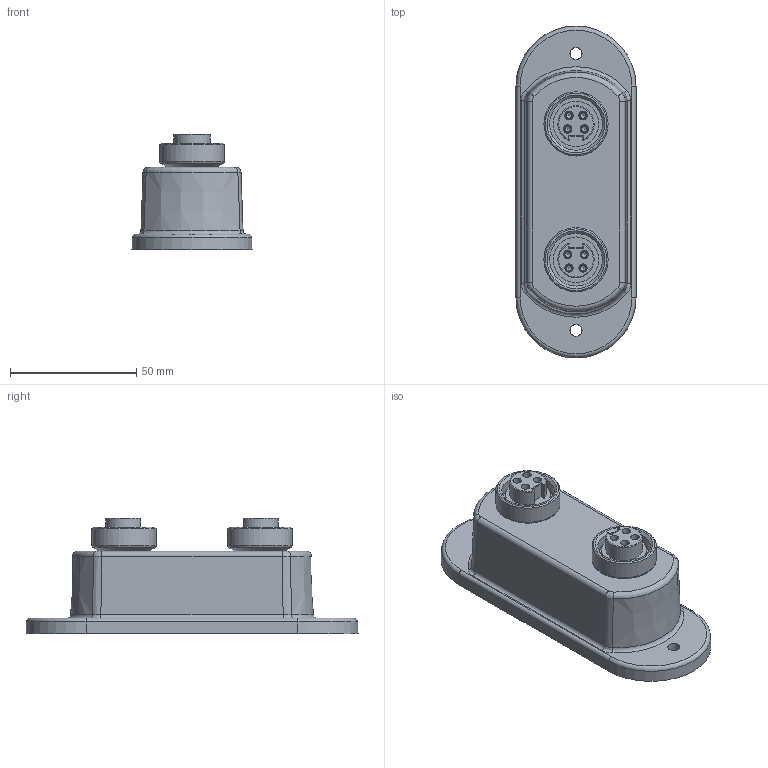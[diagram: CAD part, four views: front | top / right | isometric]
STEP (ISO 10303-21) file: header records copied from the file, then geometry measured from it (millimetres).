
FILE_DESCRIPTION((''),'2;1');
FILE_NAME('C:\TurckZip\CA-2-RKF40.stp','2010-03-05T07:32:41',('IKOROL'),(''),'Autodesk Inventor 2009','Autodesk Inventor 2009','');
FILE_SCHEMA(('CONFIG_CONTROL_DESIGN'));
Length unit declared in the file: millimetre
Products named in the file (1): Part1
Bounding box: 47.5 x 131.35 x 45.77 mm (x, y, z)
Volume: 65807.5 mm3; surface area: 42161.2 mm2
Topology: 1 solids, 12 shells, 532 faces, 1137 edges, 678 vertices
Faces by surface type: cylinder 190, plane 175, cone 83, bspline 54, sphere 20, torus 10
Full cylindrical faces by diameter (mm): 1 x8, 2.155 x16, 2.25 x16, 2.85 x8, 3.2 x8, 3.25 x16, 3.3 x8, 14 x6, 14.2 x4, 16 x2, 18 x2, 20.85 x2, 22.5 x2, 25.4 x2
Entity records: 16209 total; most frequent: CARTESIAN_POINT 5217, DIRECTION 2284, ORIENTED_EDGE 1752, AXIS2_PLACEMENT_3D 997, EDGE_CURVE 876, EDGE_LOOP 818, VERTEX_POINT 630, FACE_OUTER_BOUND 532
